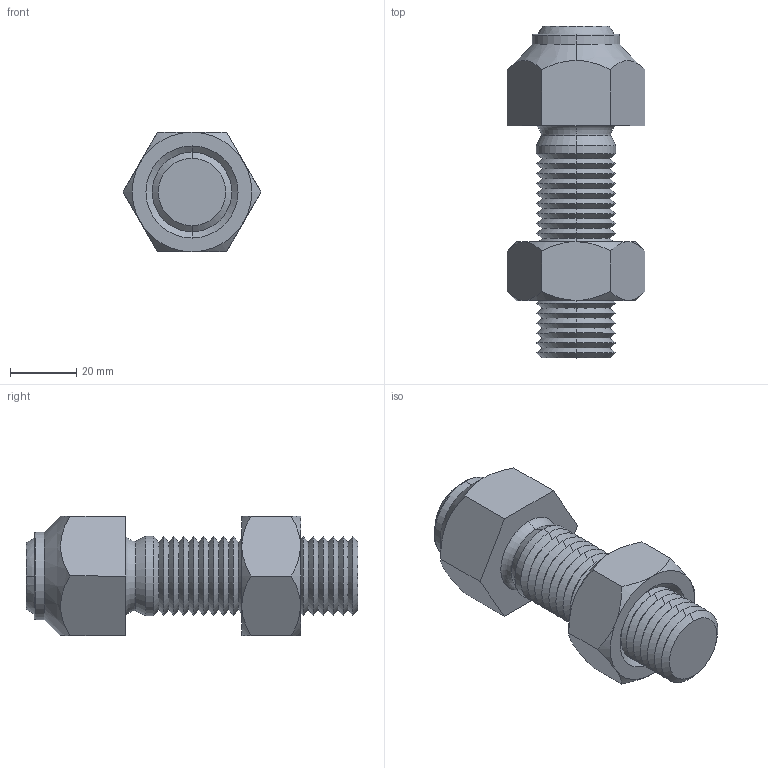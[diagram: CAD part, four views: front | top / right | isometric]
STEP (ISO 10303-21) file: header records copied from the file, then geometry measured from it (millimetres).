
FILE_DESCRIPTION (( 'STEP AP203' ), '1' );
FILE_NAME ('34120.W0036.step', '2017-03-27T09:20:32', ( 'User' ), ( '' ), 'SwSTEP 2.0', 'SolidWorks 2009', '' );
FILE_SCHEMA (( 'CONFIG_CONTROL_DESIGN' ));
Length unit declared in the file: millimetre
Products named in the file (4): Part2_34120.W0036; Part3_34120.W0036; 34120.W0036; Part1_34120.W0036
Assembly tree (3 placements, depth 2):
  34120.W0036
    Part1_34120.W0036
    Part2_34120.W0036
    Part3_34120.W0036
Bounding box: 41.57 x 100 x 36 mm (x, y, z)
Volume: 66193.7 mm3; surface area: 19762.3 mm2
Topology: 3 solids, 3 shells, 142 faces, 304 edges, 166 vertices
Faces by surface type: cone 102, plane 20, torus 8, cylinder 8, sphere 4
Entity records: 4302 total; most frequent: CARTESIAN_POINT 870, DIRECTION 704, ORIENTED_EDGE 588, EDGE_CURVE 294, AXIS2_PLACEMENT_3D 294, VERTEX_POINT 160, EDGE_LOOP 146, CIRCLE 146
